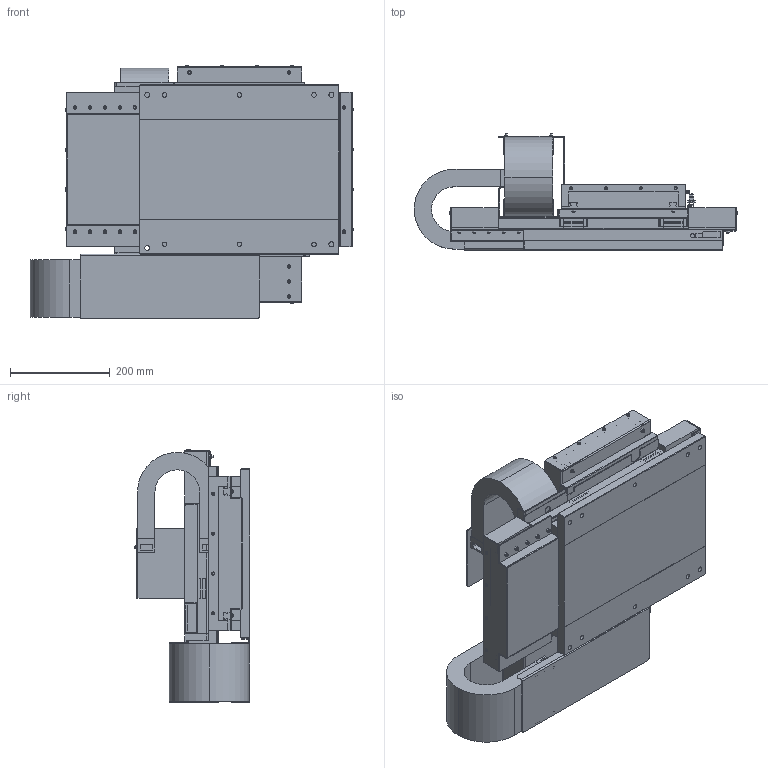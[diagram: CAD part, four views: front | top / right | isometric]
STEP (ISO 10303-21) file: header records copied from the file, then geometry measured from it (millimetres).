
FILE_DESCRIPTION (( 'STEP AP214' ), '1' );
FILE_NAME ('NST-D10B310A3BPJB_#2.00_0.STEP', '2021-03-23T05:35:37', ( '' ), ( '' ), 'SwSTEP 2.0', 'SolidWorks 2018', '' );
FILE_SCHEMA (( 'AUTOMOTIVE_DESIGN' ));
Length unit declared in the file: millimetre
Products named in the file (8): AUA01720; 14GK0100_-側_Org; NST-D10B310A3BPJB_#2.00_0; AUA01740; 14GK0090_Org; 17YK1220_Org; AUA01730; 17YK1420_Org
Assembly tree (9 placements, depth 2):
  NST-D10B310A3BPJB_#2.00_0
    AUA01720
    AUA01730
    AUA01740
    17YK1420_Org
    17YK1220_Org
    14GK0100_-側_Org  x2
    14GK0090_Org  x2
Bounding box: 650.28 x 233 x 510 mm (x, y, z)
Volume: 10737131.3 mm3; surface area: 2673795.7 mm2
Topology: 67 solids, 67 shells, 2523 faces, 6370 edges, 4049 vertices
Faces by surface type: plane 1713, cylinder 716, torus 40, cone 34, sphere 16, bspline 4
Entity records: 96758 total; most frequent: CARTESIAN_POINT 14398, DIRECTION 12188, ORIENTED_EDGE 12080, EDGE_CURVE 6040, VECTOR 4342, LINE 4342, AXIS2_PLACEMENT_3D 3923, VERTEX_POINT 3857
